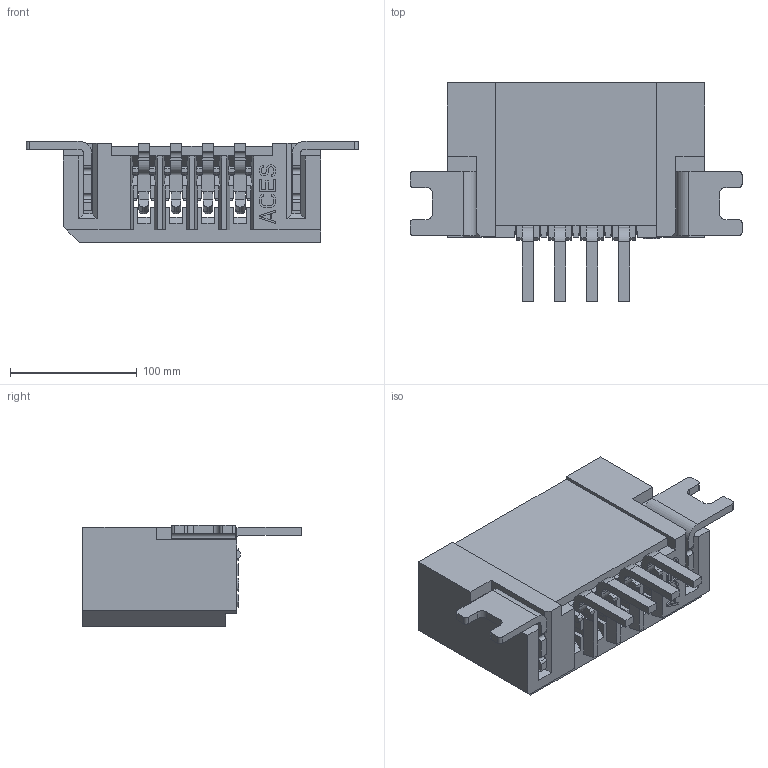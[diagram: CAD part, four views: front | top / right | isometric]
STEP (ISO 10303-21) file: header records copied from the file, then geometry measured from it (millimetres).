
FILE_DESCRIPTION((''),'2;1');
FILE_NAME('S-50687-004XX-XXX','2014-09-26T',('d21450'),(''),'PRO/ENGINEER BY PARAMETRIC TECHNOLOGY CORPORATION, 2009360','PRO/ENGINEER BY PARAMETRIC TECHNOLOGY CORPORATION, 2009360','');
FILE_SCHEMA(('CONFIG_CONTROL_DESIGN'));
Length unit declared in the file: inch
Products named in the file (1): S-50687-004XX-XXX
Bounding box: 262.38 x 172.72 x 80.19 mm (x, y, z)
Volume: 1613720.8 mm3; surface area: 187295.3 mm2
Topology: 1 solids, 1 shells, 614 faces, 1810 edges, 1192 vertices
Faces by surface type: plane 521, cylinder 85, torus 8
Entity records: 20178 total; most frequent: CARTESIAN_POINT 3606, ORIENTED_EDGE 3572, DIRECTION 3230, EDGE_CURVE 1786, VECTOR 1616, LINE 1616, VERTEX_POINT 1168, AXIS2_PLACEMENT_3D 807
